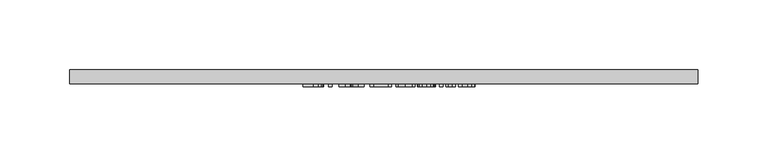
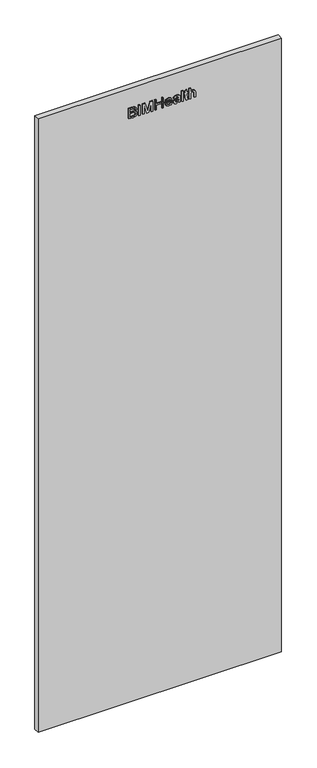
"""IFC4 building model written with IfcOpenShell, lengths in millimetres: furniture geometry, BIMHealth-Mirror_Small-LOD2A-v1 : BIMHealth-Mirror_Small-LOD2A-v1."""

from ifc_helpers import new_model, si_unit, frame, origin, place, context, project, spatial, polyline, outline, extrude, source, transform, mapped, element, save


def furniture_2942776d(model_context):
    return source(origin(), model_context, "Body", "SweptSolid", [
        extrude(outline(polyline([(1741.9702901, 167.0094426), (1741.9702901, 174.4661734), (1742.3092324, 177.6224234), (1743.3092324, 179.7642503), (1745.1938478, 181.1993465), (1747.8404824, 181.7786734), (1750.9029824, 180.9301157), (1752.7395209, 178.5046349), (1754.4823093, 180.5022311), (1756.7827901, 181.1632888), (1759.3020209, 180.3772311), (1761.0832709, 178.2041542), (1761.6625978, 174.5238657), (1761.6625978, 167.0094426), (1741.9702901, 167.0094426)]), holes=[polyline([(1753.6625978, 169.4709811), (1759.2010593, 169.4709811), (1759.2010593, 173.6248273), (1758.9438478, 176.7882888), (1757.9943286, 178.206558), (1756.3885593, 178.7017503), (1754.7851939, 178.1705003), (1753.8741363, 176.5911734), (1753.6625978, 173.9661734), (1753.6625978, 169.4709811)]), polyline([(1744.4318286, 169.4709811), (1751.2010593, 169.4709811), (1751.2010593, 174.2786734), (1750.8717324, 177.3195388), (1749.7299055, 178.8459811), (1747.8164439, 179.3171349), (1745.0640401, 177.8916542), (1744.5279824, 176.3459811), (1744.4318286, 174.519058), (1744.4318286, 169.4709811)])]), frame((0.0, -12.0, 0.0), z_axis=(0.0, 1.0, 0.0), x_axis=(0.0, 0.0, 1.0)), (0.0, 0.0, 1.0), 2.0),
        extrude(outline(polyline([(187.9325196, -12.0), (185.4709811, -12.0), (185.4709811, -10.0), (187.9325196, -10.0), (187.9325196, -12.0)])), frame((0.0, 0.0, 1741.9702901), z_axis=(0.0, 0.0, 1.0), x_axis=(1.0, 0.0, 0.0)), (0.0, 0.0, 1.0), 19.6923077),
        extrude(outline(polyline([(1741.9702901, 192.8555965), (1741.9702901, 195.3171349), (1759.2010593, 195.3171349), (1741.9702901, 200.269058), (1741.9702901, 203.6007888), (1759.2010593, 208.5479042), (1741.9702901, 208.5479042), (1741.9702901, 211.0094426), (1761.6625978, 211.0094426), (1761.6625978, 206.7738657), (1748.0231747, 202.8123273), (1744.8837516, 201.9325196), (1747.7827901, 201.1152119), (1761.6625978, 197.0767503), (1761.6625978, 192.8555965), (1741.9702901, 192.8555965)])), frame((0.0, -12.0, 0.0), z_axis=(0.0, 1.0, 0.0), x_axis=(0.0, 0.0, 1.0)), (0.0, 0.0, 1.0), 2.0),
        extrude(outline(polyline([(1741.9702901, 215.3171349), (1741.9702901, 217.7786734), (1751.2010593, 217.7786734), (1751.2010593, 228.2402119), (1741.9702901, 228.2402119), (1741.9702901, 230.7017503), (1761.6625978, 230.7017503), (1761.6625978, 228.2402119), (1753.6625978, 228.2402119), (1753.6625978, 217.7786734), (1761.6625978, 217.7786734), (1761.6625978, 215.3171349), (1741.9702901, 215.3171349)])), frame((0.0, -12.0, 0.0), z_axis=(0.0, 1.0, 0.0), x_axis=(0.0, 0.0, 1.0)), (0.0, 0.0, 1.0), 2.0),
        extrude(outline(polyline([(1746.2779824, 244.8267503), (1744.6385593, 243.2402119), (1744.1241363, 240.8267503), (1745.2347132, 237.6560773), (1748.4318286, 236.2402119), (1749.0952901, 247.3171349), (1754.7347132, 245.4493465), (1756.7395209, 240.6392503), (1754.7299055, 235.6873273), (1749.080867, 233.7786734), (1743.612117, 235.6680965), (1741.6625978, 240.7786734), (1742.7924055, 244.9830003), (1745.9702901, 247.2402119), (1746.2779824, 244.8267503)]), holes=[polyline([(1750.893367, 236.2402119), (1753.3573093, 237.5983849), (1754.2779824, 240.6296349), (1753.1241363, 243.8700196), (1750.893367, 244.8555965), (1750.893367, 236.2402119)])]), frame((0.0, -12.0, 0.0), z_axis=(0.0, 1.0, 0.0), x_axis=(0.0, 0.0, 1.0)), (0.0, 0.0, 1.0), 2.0),
        extrude(outline(polyline([(1743.8164439, 259.0094426), (1741.9702901, 259.6248273), (1741.9702901, 262.0863657), (1744.0400016, 261.5959811), (1748.3164439, 261.4709811), (1751.3789439, 261.4709811), (1753.5327901, 261.3507888), (1755.2034632, 260.5959811), (1756.3020209, 258.9108849), (1756.7395209, 255.9277119), (1756.2443286, 252.6801157), (1754.8356747, 250.5358849), (1752.4318286, 249.4709811), (1752.1241363, 251.9325196), (1753.8044247, 253.1200196), (1754.2779824, 255.6104042), (1753.5664439, 258.331558), (1751.2010593, 258.9950196), (1750.3549055, 254.7257888), (1749.9847132, 252.5959811), (1749.1770209, 250.8724234), (1747.7635593, 249.6344426), (1745.8164439, 249.1632888), (1742.830867, 250.4108849), (1741.6625978, 253.9854042), (1742.1481747, 256.6224234), (1743.8164439, 259.0094426)]), holes=[polyline([(1748.3909632, 259.0022311), (1746.1385593, 258.6055965), (1744.7130786, 256.9998273), (1744.1241363, 254.5094426), (1747.5856747, 252.9205003), (1747.9847132, 255.0382888), (1748.3909632, 259.0022311)])]), frame((0.0, -12.0, 0.0), z_axis=(0.0, 1.0, 0.0), x_axis=(0.0, 0.0, 1.0)), (0.0, 0.0, 1.0), 2.0),
        extrude(outline(polyline([(267.3171349, -12.0), (264.8555965, -12.0), (264.8555965, -10.0), (267.3171349, -10.0), (267.3171349, -12.0)])), frame((0.0, 0.0, 1741.9702901), z_axis=(0.0, 0.0, 1.0), x_axis=(1.0, 0.0, 0.0)), (0.0, 0.0, 1.0), 19.6923077),
        extrude(outline(polyline([(1745.0159632, 275.0094426), (1753.9702901, 273.7786734), (1753.9702901, 276.2402119), (1756.4318286, 276.2402119), (1756.4318286, 273.7786734), (1761.393367, 273.7786734), (1759.9462516, 271.3171349), (1756.4318286, 271.3171349), (1756.4318286, 269.4709811), (1753.9702901, 269.4709811), (1753.9702901, 271.3171349), (1745.9366363, 271.3171349), (1742.0712516, 272.644058), (1741.6625978, 274.706558), (1741.8981747, 276.5479042), (1745.0159632, 275.0094426)])), frame((0.0, -12.0, 0.0), z_axis=(0.0, 1.0, 0.0), x_axis=(0.0, 0.0, 1.0)), (0.0, 0.0, 1.0), 2.0),
        extrude(outline(polyline([(1741.9702901, 278.7017503), (1741.9702901, 281.1632888), (1749.6529824, 281.1632888), (1752.2443286, 281.5647311), (1753.7299055, 282.9108849), (1754.2779824, 284.9277119), (1753.4654824, 287.1488657), (1750.8693286, 287.9325196), (1741.9702901, 287.9325196), (1741.9702901, 290.394058), (1751.1241363, 290.394058), (1754.3597132, 289.8892503), (1756.1073093, 288.2113657), (1756.7395209, 285.4469426), (1754.4222132, 281.1632888), (1761.6625978, 281.1632888), (1761.6625978, 278.7017503), (1741.9702901, 278.7017503)])), frame((0.0, -12.0, 0.0), z_axis=(0.0, 1.0, 0.0), x_axis=(0.0, 0.0, 1.0)), (0.0, 0.0, 1.0), 2.0),
        extrude(outline(polyline([(450.0, -10.0), (0.0, -10.0), (0.0, 0.0), (450.0, 0.0), (450.0, -10.0)])), frame((0.0, 0.0, 600.0), z_axis=(0.0, 0.0, 1.0), x_axis=(1.0, 0.0, 0.0)), (0.0, 0.0, 1.0), 1200.0),
    ])


if __name__ == "__main__":
    model = new_model("IFC4")
    model_context = context("Model", 3, world=origin())
    ifc_project = project(units=[si_unit("LENGTHUNIT", "METRE", prefix="MILLI")], contexts=[model_context])
    site = spatial("IfcSite", under=ifc_project)
    building = spatial("IfcBuilding", under=site)
    placement = place(None, origin())
    furniture_shape = furniture_2942776d(model_context)
    element("IfcFurniture", 1, ObjectType="BIMHealth-Mirror_Small-LOD2A-v1 : BIMHealth-Mirror_Small-LOD2A-v1", at=placement, inside=building, context=model_context, shape_type="MappedRepresentation", body=[
        mapped(furniture_shape, transform((0.0, 0.0, 0.0), x_axis=(1.0, 0.0, 0.0), y_axis=(0.0, 1.0, 0.0), z_axis=(0.0, 0.0, 1.0))),
    ])
    save(model, "model.ifc")
